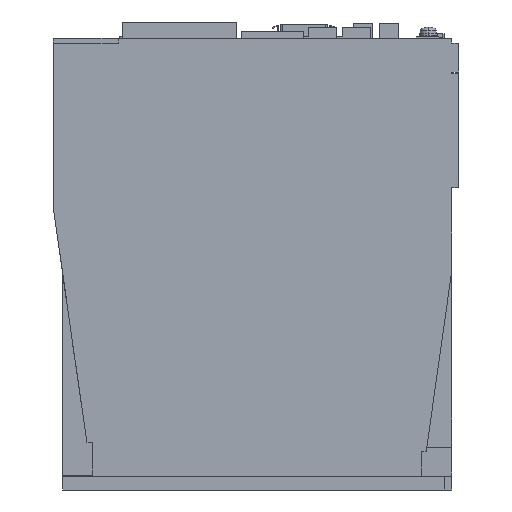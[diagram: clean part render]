
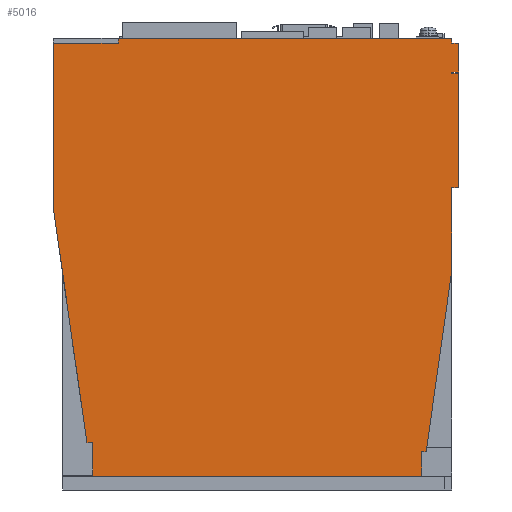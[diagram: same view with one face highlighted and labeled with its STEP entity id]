
A CAD part, left-side view. The second image highlights one B-rep face of the part: STEP entity #5016.
In plain terms, the highlighted planar face has unit normal (-1, 0, 0).
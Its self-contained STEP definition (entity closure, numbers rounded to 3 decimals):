
#1861=DIRECTION('',(0.,-1.,0.));
#1862=VECTOR('',#1861,142.);
#1863=CARTESIAN_POINT('',(-42.5,69.,0.));
#1864=LINE('',#1863,#1862);
#1938=DIRECTION('',(0.,-1.,0.));
#1939=VECTOR('',#1938,28.);
#1940=CARTESIAN_POINT('',(-42.5,86.,186.9));
#1941=LINE('',#1940,#1939);
#1945=DIRECTION('',(0.,0.,-1.));
#1946=VECTOR('',#1945,2.1);
#1947=CARTESIAN_POINT('',(-42.5,58.,189.));
#1948=LINE('',#1947,#1946);
#1952=DIRECTION('',(0.,-1.,0.));
#1953=VECTOR('',#1952,3.);
#1954=CARTESIAN_POINT('',(-42.5,-86.,187.));
#1955=LINE('',#1954,#1953);
#1959=DIRECTION('',(0.,-1.,0.));
#1960=VECTOR('',#1959,3.);
#1961=CARTESIAN_POINT('',(-42.5,-86.,174.));
#1962=LINE('',#1961,#1960);
#1966=DIRECTION('',(0.,0.14,-0.99));
#1967=VECTOR('',#1966,78.772);
#1968=CARTESIAN_POINT('',(-42.5,-86.,88.5));
#1969=LINE('',#1968,#1967);
#1973=DIRECTION('',(0.,1.,0.));
#1974=VECTOR('',#1973,2.);
#1975=CARTESIAN_POINT('',(-42.5,-75.,10.5));
#1976=LINE('',#1975,#1974);
#1980=DIRECTION('',(0.,0.,1.));
#1981=VECTOR('',#1980,10.5);
#1982=CARTESIAN_POINT('',(-42.5,-73.,0.));
#1983=LINE('',#1982,#1981);
#1987=DIRECTION('',(0.,0.,1.));
#1988=VECTOR('',#1987,14.5);
#1989=CARTESIAN_POINT('',(-42.5,69.,0.));
#1990=LINE('',#1989,#1988);
#1994=DIRECTION('',(0.,-1.,0.));
#1995=VECTOR('',#1994,2.5);
#1996=CARTESIAN_POINT('',(-42.5,71.5,14.5));
#1997=LINE('',#1996,#1995);
#2001=DIRECTION('',(0.,0.142,0.99));
#2002=VECTOR('',#2001,102.036);
#2003=CARTESIAN_POINT('',(-42.5,71.5,14.5));
#2004=LINE('',#2003,#2002);
#2008=DIRECTION('',(0.,0.,1.));
#2009=VECTOR('',#2008,71.4);
#2010=CARTESIAN_POINT('',(-42.5,86.,115.5));
#2011=LINE('',#2010,#2009);
#2526=DIRECTION('',(0.,-1.,0.));
#2527=VECTOR('',#2526,144.);
#2528=CARTESIAN_POINT('',(-42.5,58.,189.));
#2529=LINE('',#2528,#2527);
#3401=DIRECTION('',(0.,0.,1.));
#3402=VECTOR('',#3401,36.);
#3403=CARTESIAN_POINT('',(-42.5,-86.,88.5));
#3404=LINE('',#3403,#3402);
#3429=DIRECTION('',(0.,0.,1.));
#3430=VECTOR('',#3429,0.5);
#3431=CARTESIAN_POINT('',(-42.5,-86.,174.));
#3432=LINE('',#3431,#3430);
#3457=DIRECTION('',(0.,0.,1.));
#3458=VECTOR('',#3457,2.);
#3459=CARTESIAN_POINT('',(-42.5,-86.,187.));
#3460=LINE('',#3459,#3458);
#3702=DIRECTION('',(0.,0.,-1.));
#3703=VECTOR('',#3702,12.5);
#3704=CARTESIAN_POINT('',(-42.5,-89.,187.));
#3705=LINE('',#3704,#3703);
#3730=DIRECTION('',(0.,0.,-1.));
#3731=VECTOR('',#3730,49.5);
#3732=CARTESIAN_POINT('',(-42.5,-89.,174.));
#3733=LINE('',#3732,#3731);
#3863=DIRECTION('',(0.,-1.,0.));
#3864=VECTOR('',#3863,3.);
#3865=CARTESIAN_POINT('',(-42.5,-86.,174.5));
#3866=LINE('',#3865,#3864);
#3884=DIRECTION('',(0.,-1.,0.));
#3885=VECTOR('',#3884,3.);
#3886=CARTESIAN_POINT('',(-42.5,-86.,124.5));
#3887=LINE('',#3886,#3885);
#4297=CARTESIAN_POINT('',(-42.5,69.,0.));
#4298=CARTESIAN_POINT('',(-42.5,69.,14.5));
#4299=VERTEX_POINT('',#4297);
#4300=VERTEX_POINT('',#4298);
#4301=CARTESIAN_POINT('',(-42.5,71.5,14.5));
#4302=CARTESIAN_POINT('',(-42.5,86.,115.5));
#4303=VERTEX_POINT('',#4301);
#4304=VERTEX_POINT('',#4302);
#4305=CARTESIAN_POINT('',(-42.5,-73.,0.));
#4306=CARTESIAN_POINT('',(-42.5,-73.,10.5));
#4307=VERTEX_POINT('',#4305);
#4308=VERTEX_POINT('',#4306);
#4309=CARTESIAN_POINT('',(-42.5,-86.,88.5));
#4310=CARTESIAN_POINT('',(-42.5,-75.,10.5));
#4311=VERTEX_POINT('',#4309);
#4312=VERTEX_POINT('',#4310);
#4536=CARTESIAN_POINT('',(-42.5,-89.,187.));
#4538=VERTEX_POINT('',#4536);
#4539=CARTESIAN_POINT('',(-42.5,-89.,174.5));
#4540=VERTEX_POINT('',#4539);
#4544=CARTESIAN_POINT('',(-42.5,-89.,174.));
#4546=VERTEX_POINT('',#4544);
#4547=CARTESIAN_POINT('',(-42.5,-89.,124.5));
#4548=VERTEX_POINT('',#4547);
#4551=CARTESIAN_POINT('',(-42.5,-86.,187.));
#4553=VERTEX_POINT('',#4551);
#4555=CARTESIAN_POINT('',(-42.5,-86.,174.5));
#4557=VERTEX_POINT('',#4555);
#4559=CARTESIAN_POINT('',(-42.5,-86.,174.));
#4561=VERTEX_POINT('',#4559);
#4563=CARTESIAN_POINT('',(-42.5,-86.,124.5));
#4565=VERTEX_POINT('',#4563);
#4567=CARTESIAN_POINT('',(-42.5,-86.,189.));
#4568=VERTEX_POINT('',#4567);
#4599=CARTESIAN_POINT('',(-42.5,86.,186.9));
#4600=CARTESIAN_POINT('',(-42.5,58.,186.9));
#4601=VERTEX_POINT('',#4599);
#4602=VERTEX_POINT('',#4600);
#4603=CARTESIAN_POINT('',(-42.5,58.,189.));
#4604=VERTEX_POINT('',#4603);
#4971=CARTESIAN_POINT('',(-42.5,86.,0.));
#4972=DIRECTION('',(-1.,0.,0.));
#4973=DIRECTION('',(0.,-1.,0.));
#4974=AXIS2_PLACEMENT_3D('',#4971,#4972,#4973);
#4975=PLANE('',#4974);
#4977=ORIENTED_EDGE('',*,*,#4976,.T.);
#4979=ORIENTED_EDGE('',*,*,#4978,.F.);
#4981=ORIENTED_EDGE('',*,*,#4980,.T.);
#4983=ORIENTED_EDGE('',*,*,#4982,.F.);
#4985=ORIENTED_EDGE('',*,*,#4984,.T.);
#4987=ORIENTED_EDGE('',*,*,#4986,.T.);
#4989=ORIENTED_EDGE('',*,*,#4988,.F.);
#4991=ORIENTED_EDGE('',*,*,#4990,.F.);
#4993=ORIENTED_EDGE('',*,*,#4992,.T.);
#4995=ORIENTED_EDGE('',*,*,#4994,.T.);
#4997=ORIENTED_EDGE('',*,*,#4996,.F.);
#4999=ORIENTED_EDGE('',*,*,#4998,.F.);
#5001=ORIENTED_EDGE('',*,*,#5000,.T.);
#5003=ORIENTED_EDGE('',*,*,#5002,.T.);
#5004=ORIENTED_EDGE('',*,*,#4935,.F.);
#5005=ORIENTED_EDGE('',*,*,#4817,.F.);
#5007=ORIENTED_EDGE('',*,*,#5006,.T.);
#5009=ORIENTED_EDGE('',*,*,#5008,.F.);
#5011=ORIENTED_EDGE('',*,*,#5010,.T.);
#5013=ORIENTED_EDGE('',*,*,#5012,.T.);
#5014=EDGE_LOOP('',(#4977,#4979,#4981,#4983,#4985,#4987,#4989,#4991,#4993,#4995,
#4997,#4999,#5001,#5003,#5004,#5005,#5007,#5009,#5011,#5013));
#5015=FACE_OUTER_BOUND('',#5014,.F.);
#4817=EDGE_CURVE('',#4299,#4307,#1864,.T.);
#4935=EDGE_CURVE('',#4307,#4308,#1983,.T.);
#4976=EDGE_CURVE('',#4601,#4602,#1941,.T.);
#4978=EDGE_CURVE('',#4604,#4602,#1948,.T.);
#4980=EDGE_CURVE('',#4604,#4568,#2529,.T.);
#4982=EDGE_CURVE('',#4553,#4568,#3460,.T.);
#4984=EDGE_CURVE('',#4553,#4538,#1955,.T.);
#4986=EDGE_CURVE('',#4538,#4540,#3705,.T.);
#4988=EDGE_CURVE('',#4557,#4540,#3866,.T.);
#4990=EDGE_CURVE('',#4561,#4557,#3432,.T.);
#4992=EDGE_CURVE('',#4561,#4546,#1962,.T.);
#4994=EDGE_CURVE('',#4546,#4548,#3733,.T.);
#4996=EDGE_CURVE('',#4565,#4548,#3887,.T.);
#4998=EDGE_CURVE('',#4311,#4565,#3404,.T.);
#5000=EDGE_CURVE('',#4311,#4312,#1969,.T.);
#5002=EDGE_CURVE('',#4312,#4308,#1976,.T.);
#5006=EDGE_CURVE('',#4299,#4300,#1990,.T.);
#5008=EDGE_CURVE('',#4303,#4300,#1997,.T.);
#5010=EDGE_CURVE('',#4303,#4304,#2004,.T.);
#5012=EDGE_CURVE('',#4304,#4601,#2011,.T.);
#5016=ADVANCED_FACE('',(#5015),#4975,.T.);
